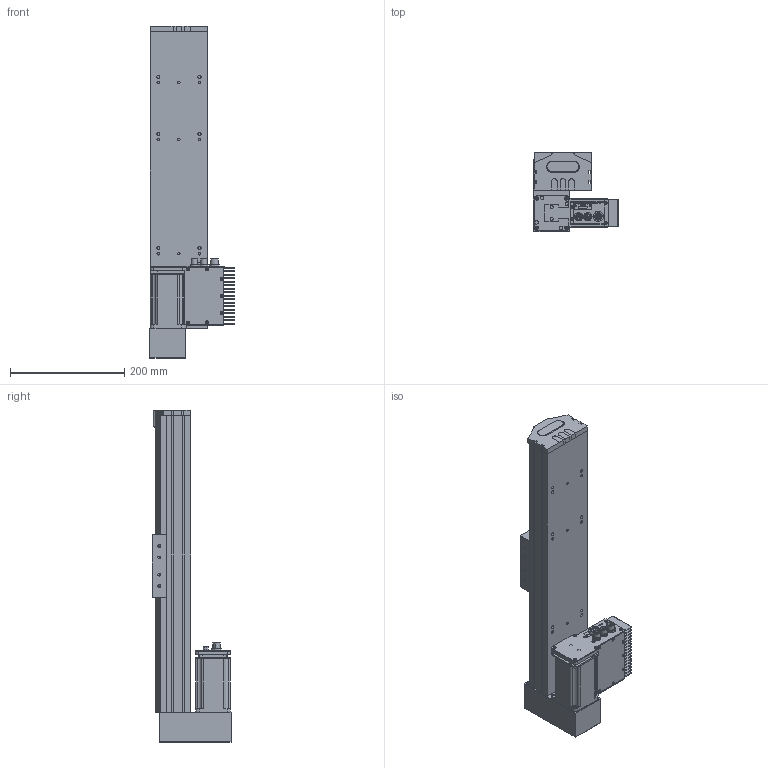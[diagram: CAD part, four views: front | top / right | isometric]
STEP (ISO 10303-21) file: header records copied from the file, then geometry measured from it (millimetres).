
FILE_DESCRIPTION (( 'STEP AP203' ), '1' );
FILE_NAME ('S 10 TSH BM S300.STEP', '2012-09-06T14:38:27', ( 'Conseil Régional Haute-Normandie' ), ( 'Conseil Régional Haute-Normandie' ), 'SwSTEP 2.0', 'SolidWorks 2010', '' );
FILE_SCHEMA (( 'CONFIG_CONTROL_DESIGN' ));
Length unit declared in the file: millimetre
Products named in the file (25): remplir_Default; S 10 TSH BM S300; Pièce2_Default; T_X2_00F4_X0_le fond_3; axe520_Default; piece_plastique remplieTSH_Default; embout_modifié; palette tbn2; Assem1_7; T_X2_00F4_X0_le contre le moteur_5; Colonnette_3; BU41 Carte Alimentation P05_3; BU45 Carte d''axe A11_5; Radiateur profil_X2_00E9_X0_ 100x25_3; Moteur 60BLDC90A_3; Couvercle_3; Vis TF 3 torkx_1_1; Connecteur rond D10 3cts_5; Connecteur rond D12 4cts_5; Sub D 9cts 90_X2_00B_X0__3; Colonnette ronde_3; T_X2_00F4_X0_le Arri_X2_00E8_X0_re_5; T_X2_00F4_X0_le lat_X2_00E9_X0_rale_5; Copie de renvoie LH2_Default; Vis TF 3 torkx
Assembly tree (55 placements, depth 3):
  S 10 TSH BM S300
    piece_plastique remplieTSH_Default
      remplir_Default  x3
      embout_modifié
      Pièce2_Default
    Vis TF 3 torkx  x7
    Assem1_7
      Connecteur rond D10 3cts_5  x2
      T_X2_00F4_X0_le lat_X2_00E9_X0_rale_5  x2
      Vis TF 3 torkx_1_1  x21
      Moteur 60BLDC90A_3
      Couvercle_3
      BU41 Carte Alimentation P05_3
      T_X2_00F4_X0_le fond_3
      Colonnette ronde_3
      T_X2_00F4_X0_le Arri_X2_00E8_X0_re_5
      Colonnette_3  x2
      T_X2_00F4_X0_le contre le moteur_5
      BU45 Carte d''axe A11_5
      Connecteur rond D12 4cts_5
      Sub D 9cts 90_X2_00B_X0__3
      Radiateur profil_X2_00E9_X0_ 100x25_3
    Copie de renvoie LH2_Default
    axe520_Default
    palette tbn2
Bounding box: 149.38 x 138.75 x 582 mm (x, y, z)
Volume: 3440718.5 mm3; surface area: 571332.3 mm2
Topology: 53 solids, 53 shells, 1961 faces, 4996 edges, 3250 vertices
Faces by surface type: plane 921, cylinder 869, cone 164, sphere 4, torus 3
Entity records: 38429 total; most frequent: CARTESIAN_POINT 6439, DIRECTION 6257, ORIENTED_EDGE 5684, EDGE_CURVE 2842, AXIS2_PLACEMENT_3D 2293, VERTEX_POINT 1862, VECTOR 1671, LINE 1671
